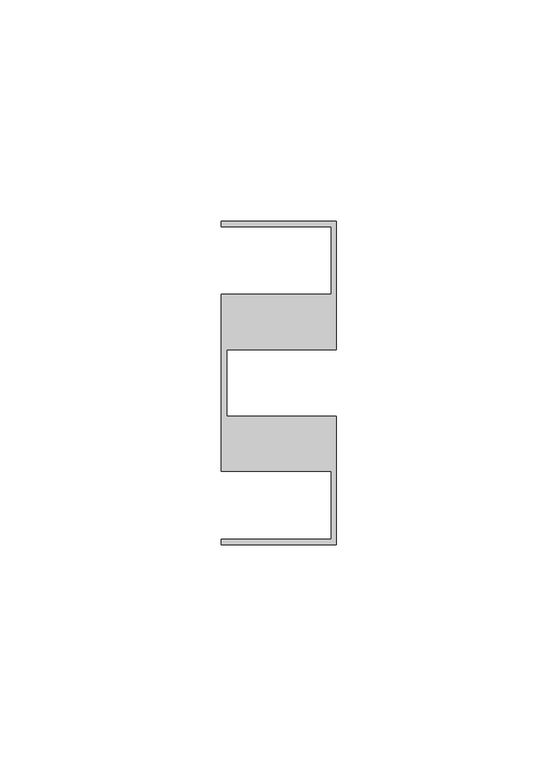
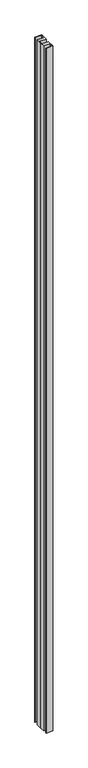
"""IFC4 building model written with IfcOpenShell, lengths in millimetres: member geometry, Прямоугольный импост : 10-AMG-2-Профиль 26Х73 Верх П."""

from ifc_helpers import new_model, si_unit, frame, origin, place, context, project, spatial, polyline, outline, extrude, source, transform, mapped, element, save


def member_c30fd7d8(model_context):
    return source(origin(), model_context, "Body", "SweptSolid", [
        extrude(outline(polyline([(-26.0, 36.5), (0.0, 36.5), (0.0, 7.5116043), (-24.8, 7.5116043), (-24.8, 0.0), (-24.8, -7.5116043), (0.0, -7.5116043), (0.0, -36.5), (-26.0, -36.5), (-26.0, -35.3116043), (-1.2, -35.3116043), (-1.2, -20.0), (-26.0, -20.0), (-26.0, 0.0), (-26.0, 20.0), (-1.2, 20.0), (-1.2, 35.3), (-26.0, 35.3), (-26.0, 36.5)])), frame((0.0, 0.0, -2748.0), z_axis=(0.0, 0.0, 1.0), x_axis=(1.0, 0.0, 0.0)), (0.0, 0.0, 1.0), 2748.0),
    ])


if __name__ == "__main__":
    model = new_model("IFC4")
    model_context = context("Model", 3, world=origin())
    ifc_project = project(units=[si_unit("LENGTHUNIT", "METRE", prefix="MILLI")], contexts=[model_context])
    site = spatial("IfcSite", under=ifc_project)
    building = spatial("IfcBuilding", under=site)
    placement = place(None, origin())
    member_shape = member_c30fd7d8(model_context)
    element("IfcMember", 1, ObjectType="Прямоугольный импост : 10-AMG-2-Профиль 26Х73 Верх П", at=placement, inside=building, context=model_context, shape_type="MappedRepresentation", body=[
        mapped(member_shape, transform((0.0, 0.0, 0.0), x_axis=(1.0, 0.0, 0.0), y_axis=(0.0, 1.0, 0.0), z_axis=(0.0, 0.0, 1.0))),
    ])
    save(model, "model.ifc")
